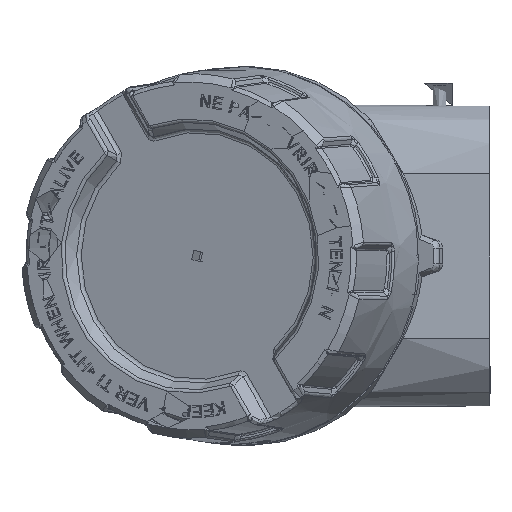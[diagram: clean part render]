
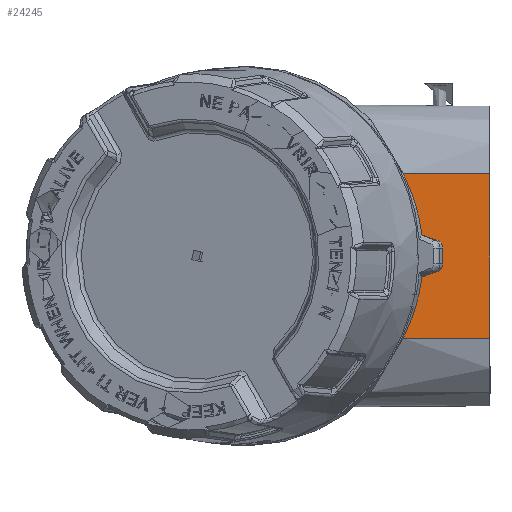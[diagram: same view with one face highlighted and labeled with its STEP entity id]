
A CAD part, front view. The second image highlights one B-rep face of the part: STEP entity #24245.
In plain terms, the highlighted planar face has unit normal (0, -1, 0).
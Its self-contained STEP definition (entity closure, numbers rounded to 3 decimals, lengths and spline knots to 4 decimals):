
#403=ELLIPSE($,#25712,1.8854,1.7717);
#404=ELLIPSE($,#25714,1.8854,1.7717);
#405=ELLIPSE($,#25739,0.0838,0.0787);
#406=ELLIPSE($,#25741,0.0838,0.0787);
#1836=LINE($,#91783,#3593);
#1856=LINE($,#93276,#3613);
#1862=LINE($,#93286,#3619);
#1864=LINE($,#93290,#3621);
#1865=LINE($,#93297,#3622);
#1866=LINE($,#93298,#3623);
#3593=VECTOR($,#29837,1.5354);
#3613=VECTOR($,#30005,0.1493);
#3619=VECTOR($,#30013,0.1489);
#3621=VECTOR($,#30017,0.1489);
#3622=VECTOR($,#30030,0.8115);
#3623=VECTOR($,#30031,0.8115);
#6348=PLANE($,#25743);
#7924=FACE_OUTER_BOUND($,#9495,.T.);
#9495=EDGE_LOOP($,(#21946,#21947,#21948,#21949,#21950,#21951,#21952,#21953,
#21954,#21955));
#12267=VERTEX_POINT($,#91780);
#12268=VERTEX_POINT($,#91782);
#12305=VERTEX_POINT($,#93174);
#12306=VERTEX_POINT($,#93176);
#12309=VERTEX_POINT($,#93191);
#12310=VERTEX_POINT($,#93202);
#12321=VERTEX_POINT($,#93274);
#12322=VERTEX_POINT($,#93275);
#12325=VERTEX_POINT($,#93284);
#12326=VERTEX_POINT($,#93288);
#15524=EDGE_CURVE($,#12267,#12268,#1836,.T.);
#15587=EDGE_CURVE($,#12306,#12305,#403,.F.);
#15591=EDGE_CURVE($,#12310,#12309,#404,.F.);
#15605=EDGE_CURVE($,#12321,#12322,#1856,.T.);
#15611=EDGE_CURVE($,#12325,#12305,#1862,.T.);
#15613=EDGE_CURVE($,#12310,#12326,#1864,.T.);
#15614=EDGE_CURVE($,#12321,#12326,#405,.F.);
#15615=EDGE_CURVE($,#12325,#12322,#406,.F.);
#15617=EDGE_CURVE($,#12309,#12268,#1865,.T.);
#15618=EDGE_CURVE($,#12306,#12267,#1866,.T.);
#21946=ORIENTED_EDGE($,*,*,#15611,.F.);
#21947=ORIENTED_EDGE($,*,*,#15615,.T.);
#21948=ORIENTED_EDGE($,*,*,#15605,.F.);
#21949=ORIENTED_EDGE($,*,*,#15614,.T.);
#21950=ORIENTED_EDGE($,*,*,#15613,.F.);
#21951=ORIENTED_EDGE($,*,*,#15591,.T.);
#21952=ORIENTED_EDGE($,*,*,#15617,.T.);
#21953=ORIENTED_EDGE($,*,*,#15524,.F.);
#21954=ORIENTED_EDGE($,*,*,#15618,.F.);
#21955=ORIENTED_EDGE($,*,*,#15587,.T.);
#24245=ADVANCED_FACE($,(#7924),#6348,.T.);
#25712=AXIS2_PLACEMENT_3D($,#93177,#29955,#29956);
#25714=AXIS2_PLACEMENT_3D($,#93203,#29959,#29960);
#25739=AXIS2_PLACEMENT_3D($,#93292,#30020,#30021);
#25741=AXIS2_PLACEMENT_3D($,#93294,#30024,#30025);
#25743=AXIS2_PLACEMENT_3D($,#93296,#30028,#30029);
#29837=DIRECTION($,(0.,0.,-1.));
#29955=DIRECTION('center_axis',(0.,-1.,0.));
#29956=DIRECTION('ref_axis',(-1.,0.,0.));
#29959=DIRECTION('center_axis',(0.,-1.,0.));
#29960=DIRECTION('ref_axis',(-1.,0.,0.));
#30005=DIRECTION($,(0.,0.,1.));
#30013=DIRECTION($,(-0.946,0.,0.324));
#30017=DIRECTION($,(0.946,0.,0.324));
#30020=DIRECTION('center_axis',(0.,-1.,0.));
#30021=DIRECTION('ref_axis',(-1.,0.,0.));
#30024=DIRECTION('center_axis',(0.,-1.,0.));
#30025=DIRECTION('ref_axis',(-1.,0.,0.));
#30028=DIRECTION('center_axis',(0.,-1.,0.));
#30029=DIRECTION('ref_axis',(-1.,0.,0.));
#30030=DIRECTION($,(1.,0.,0.));
#30031=DIRECTION($,(1.,0.,0.));
#91780=CARTESIAN_POINT('',(10.5675,2.4028,4.0333));
#91782=CARTESIAN_POINT('',(10.5675,2.4028,2.4979));
#91783=CARTESIAN_POINT($,(10.5675,2.4028,4.0333));
#93174=CARTESIAN_POINT('',(9.9305,2.4028,3.4624));
#93176=CARTESIAN_POINT('',(9.7559,2.4028,4.0333));
#93177=CARTESIAN_POINT('Origin',(8.0568,2.4028,3.2656));
#93191=CARTESIAN_POINT('',(9.7559,2.4028,2.4979));
#93202=CARTESIAN_POINT('',(9.9305,2.4028,3.0687));
#93203=CARTESIAN_POINT('Origin',(8.0568,2.4028,3.2656));
#93274=CARTESIAN_POINT('',(10.1265,2.4028,3.1909));
#93275=CARTESIAN_POINT('',(10.1265,2.4028,3.3402));
#93276=CARTESIAN_POINT($,(10.1265,2.4028,4.0333));
#93284=CARTESIAN_POINT('',(10.0714,2.4028,3.4142));
#93286=CARTESIAN_POINT($,(8.0878,2.4028,4.0927));
#93288=CARTESIAN_POINT('',(10.0714,2.4028,3.1169));
#93290=CARTESIAN_POINT($,(8.5579,2.4028,2.5993));
#93292=CARTESIAN_POINT('Origin',(10.0427,2.4028,3.1909));
#93294=CARTESIAN_POINT('Origin',(10.0427,2.4028,3.3402));
#93296=CARTESIAN_POINT('Origin',(8.0675,2.4028,4.0333));
#93297=CARTESIAN_POINT($,(8.0675,2.4028,2.4979));
#93298=CARTESIAN_POINT($,(8.0675,2.4028,4.0333));
